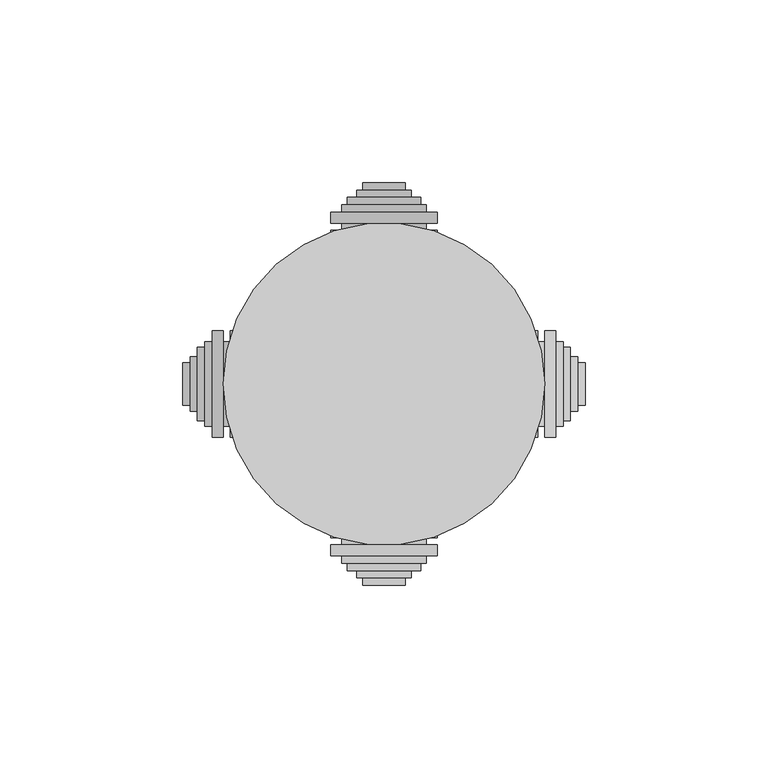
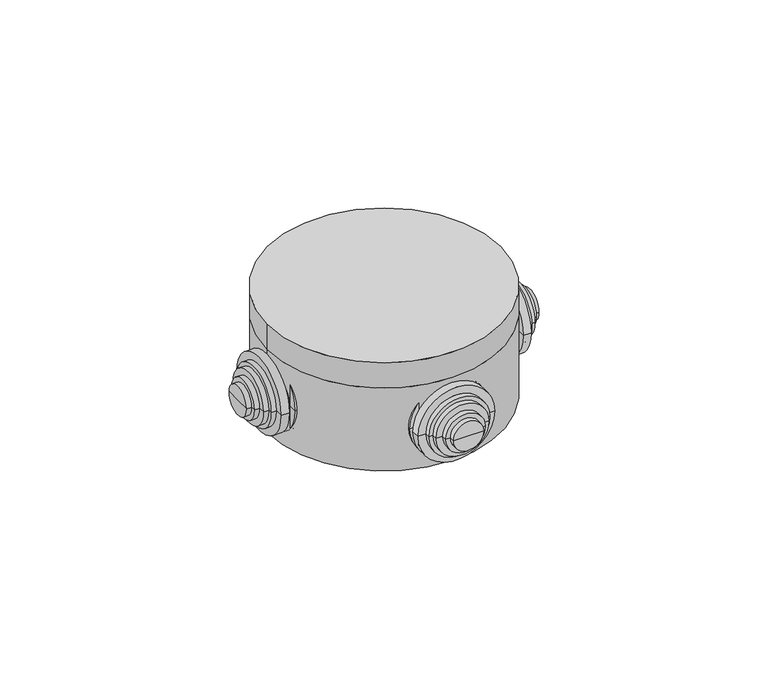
"""IFC4 building model written with IfcOpenShell, lengths in millimetres: cable carrier fitting geometry."""

from ifc_helpers import new_model, si_unit, frame, origin, origin_with_axes, place, context, project, spatial, polyline, circle_curve, source, transform, mapped, element, save
from ifc_brep_helpers import plane_surface, cylinder_surface, revolved_surface, advanced_brep


def cable_carrier_fitting_8490ce1b(model_context):
    return source(origin(), model_context, "Body", "AdvancedBrep", [
        advanced_brep(
        [(-42.0, -11.5, 16.5), (-42.0, 11.5, 16.5), (-42.0, 14.5, 16.5), (-42.0, -14.5, 16.5), (-44.0, -11.5, 16.5), (-44.0, 11.5, 16.5), (-44.0, -14.5, 16.5), (-44.0, 14.5, 16.5), (-47.0, -14.5, 16.5), (-47.0, 14.5, 16.5), (-47.0, -11.5, 16.5), (-47.0, 11.5, 16.5), (-49.0, -11.5, 16.5), (-49.0, 11.5, 16.5), (-49.0, -10.0, 16.5), (-49.0, 10.0, 16.5), (-51.0, -10.0, 16.5), (-51.0, 10.0, 16.5), (-51.0, -7.5, 16.5), (-51.0, 7.5, 16.5), (-53.0, -7.5, 16.5), (-53.0, 7.5, 16.5), (-53.0, -5.75, 16.5), (-53.0, 5.75, 16.5), (-55.0, -5.75, 16.5), (-55.0, 5.75, 16.5), (-55.0, 0.0, 16.5), (-39.0, -11.5, 16.5), (-39.0, 11.5, 16.5), (-39.0, 0.0, 16.5), (-39.7491137, -14.5, 16.5), (-39.7491137, 14.5, 16.5)],
        [
            (0, 1, circle_curve(frame((-42.0, 0.0, 16.5), z_axis=(1.0, 0.0, 0.0), x_axis=(0.0, 1.0000000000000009, 0.0)), 11.5)),
            (1, 2),
            (2, 3, circle_curve(frame((-42.0, 0.0, 16.5), z_axis=(-1.0, 0.0, 0.0), x_axis=(0.0, 1.0000000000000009, 0.0)), 14.5)),
            (3, 0),
            (1, 0, circle_curve(frame((-42.0, 0.0, 16.5), z_axis=(1.0, 0.0, 0.0), x_axis=(0.0, 1.0000000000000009, 0.0)), 11.5)),
            (3, 2, circle_curve(frame((-42.0, 0.0, 16.5), z_axis=(-1.0, 0.0, 0.0), x_axis=(0.0, 1.0000000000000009, 0.0)), 14.5)),
            (4, 5, circle_curve(frame((-44.0, 0.0, 16.5), z_axis=(1.0, 0.0, 0.0), x_axis=(0.0, 1.0000000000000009, 0.0)), 11.5)),
            (5, 1),
            (0, 4),
            (5, 4, circle_curve(frame((-44.0, 0.0, 16.5), z_axis=(1.0, 0.0, 0.0), x_axis=(0.0, 1.0000000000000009, 0.0)), 11.5)),
            (6, 7, circle_curve(frame((-44.0, 0.0, 16.5), z_axis=(1.0, 0.0, 0.0), x_axis=(0.0, 1.0000000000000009, 0.0)), 14.5)),
            (7, 5),
            (4, 6),
            (7, 6, circle_curve(frame((-44.0, 0.0, 16.5), z_axis=(1.0, 0.0, 0.0), x_axis=(0.0, 1.0000000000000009, 0.0)), 14.5)),
            (8, 9, circle_curve(frame((-47.0, 0.0, 16.5), z_axis=(1.0, 0.0, 0.0), x_axis=(0.0, 1.0000000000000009, 0.0)), 14.5)),
            (9, 7),
            (6, 8),
            (9, 8, circle_curve(frame((-47.0, 0.0, 16.5), z_axis=(1.0, 0.0, 0.0), x_axis=(0.0, 1.0000000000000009, 0.0)), 14.5)),
            (10, 11, circle_curve(frame((-47.0, 0.0, 16.5), z_axis=(1.0, 0.0, 0.0), x_axis=(0.0, 1.0000000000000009, 0.0)), 11.5)),
            (11, 9),
            (8, 10),
            (11, 10, circle_curve(frame((-47.0, 0.0, 16.5), z_axis=(1.0, 0.0, 0.0), x_axis=(0.0, 1.0000000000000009, 0.0)), 11.5)),
            (12, 13, circle_curve(frame((-49.0, 0.0, 16.5), z_axis=(1.0, 0.0, 0.0), x_axis=(0.0, 1.0000000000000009, 0.0)), 11.5)),
            (13, 11),
            (10, 12),
            (13, 12, circle_curve(frame((-49.0, 0.0, 16.5), z_axis=(1.0, 0.0, 0.0), x_axis=(0.0, 1.0000000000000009, 0.0)), 11.5)),
            (14, 15, circle_curve(frame((-49.0, 0.0, 16.5), z_axis=(1.0, 0.0, 0.0), x_axis=(0.0, 1.0000000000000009, 0.0)), 10.0)),
            (15, 13),
            (12, 14),
            (15, 14, circle_curve(frame((-49.0, 0.0, 16.5), z_axis=(1.0, 0.0, 0.0), x_axis=(0.0, 1.0000000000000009, 0.0)), 10.0)),
            (16, 17, circle_curve(frame((-51.0, 0.0, 16.5), z_axis=(1.0, 0.0, 0.0), x_axis=(0.0, 1.0000000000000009, 0.0)), 10.0)),
            (17, 15),
            (14, 16),
            (17, 16, circle_curve(frame((-51.0, 0.0, 16.5), z_axis=(1.0, 0.0, 0.0), x_axis=(0.0, 1.0000000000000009, 0.0)), 10.0)),
            (18, 19, circle_curve(frame((-51.0, 0.0, 16.5), z_axis=(1.0, 0.0, 0.0), x_axis=(0.0, 1.0000000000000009, 0.0)), 7.5)),
            (19, 17),
            (16, 18),
            (19, 18, circle_curve(frame((-51.0, 0.0, 16.5), z_axis=(1.0, 0.0, 0.0), x_axis=(0.0, 1.0000000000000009, 0.0)), 7.5)),
            (20, 21, circle_curve(frame((-53.0, 0.0, 16.5), z_axis=(1.0, 0.0, 0.0), x_axis=(0.0, 1.0000000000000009, 0.0)), 7.5)),
            (21, 19),
            (18, 20),
            (21, 20, circle_curve(frame((-53.0, 0.0, 16.5), z_axis=(1.0, 0.0, 0.0), x_axis=(0.0, 1.0000000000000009, 0.0)), 7.5)),
            (22, 23, circle_curve(frame((-53.0, 0.0, 16.5), z_axis=(1.0, 0.0, 0.0), x_axis=(0.0, 1.0000000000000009, 0.0)), 5.75)),
            (23, 21),
            (20, 22),
            (23, 22, circle_curve(frame((-53.0, 0.0, 16.5), z_axis=(1.0, 0.0, 0.0), x_axis=(0.0, 1.0000000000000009, 0.0)), 5.75)),
            (24, 25, circle_curve(frame((-55.0, 0.0, 16.5), z_axis=(1.0, 0.0, 0.0), x_axis=(0.0, 1.0000000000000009, 0.0)), 5.75)),
            (25, 23),
            (22, 24),
            (25, 24, circle_curve(frame((-55.0, 0.0, 16.5), z_axis=(1.0, 0.0, 0.0), x_axis=(0.0, 1.0000000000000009, 0.0)), 5.75)),
            (26, 25),
            (24, 26),
            (27, 28, circle_curve(frame((-39.0, 0.0, 16.5), z_axis=(1.0, 0.0, 0.0), x_axis=(0.0, 1.0000000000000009, 0.0)), 11.5)),
            (28, 29),
            (29, 27),
            (28, 27, circle_curve(frame((-39.0, 0.0, 16.5), z_axis=(1.0, 0.0, 0.0), x_axis=(0.0, 1.0000000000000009, 0.0)), 11.5)),
            (30, 31, circle_curve(frame((-39.7491137, 0.0, 16.5), z_axis=(1.0, 0.0, 0.0), x_axis=(0.0, 1.0000000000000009, 0.0)), 14.5)),
            (31, 28),
            (27, 30),
            (31, 30, circle_curve(frame((-39.7491137, 0.0, 16.5), z_axis=(1.0, 0.0, 0.0), x_axis=(0.0, 1.0000000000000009, 0.0)), 14.5)),
            (2, 31),
            (30, 3),
        ],
        [
            plane_surface(frame((-42.0, 0.0, 16.5), z_axis=(-1.0, 0.0, 0.0), x_axis=(0.0, 1.0, 0.0))),
            cylinder_surface(frame((1471.0, 0.0, 16.5), z_axis=(-1.0000000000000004, 0.0, 0.0), x_axis=(0.0, 1.0000000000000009, 0.0)), 11.5),
            plane_surface(frame((-44.0, 0.0, 16.5), z_axis=(1.0, 0.0, 0.0), x_axis=(0.0, 1.0, 0.0))),
            cylinder_surface(frame((1471.0, 0.0, 16.5), z_axis=(-1.0000000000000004, 0.0, 0.0), x_axis=(0.0, 1.0000000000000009, 0.0)), 14.5),
            plane_surface(frame((-47.0, 0.0, 16.5), z_axis=(-1.0, 0.0, 0.0), x_axis=(0.0, 1.0, 0.0))),
            plane_surface(frame((-49.0, 0.0, 16.5), z_axis=(-1.0, 0.0, 0.0), x_axis=(0.0, 1.0, 0.0))),
            cylinder_surface(frame((1471.0, 0.0, 16.5), z_axis=(-1.0000000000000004, 0.0, 0.0), x_axis=(0.0, 1.0000000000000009, 0.0)), 10.0),
            plane_surface(frame((-51.0, 0.0, 16.5), z_axis=(-1.0, 0.0, 0.0), x_axis=(0.0, 1.0, 0.0))),
            cylinder_surface(frame((1471.0, 0.0, 16.5), z_axis=(-1.0000000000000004, 0.0, 0.0), x_axis=(0.0, 1.0000000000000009, 0.0)), 7.5),
            plane_surface(frame((-53.0, 0.0, 16.5), z_axis=(-1.0, 0.0, 0.0), x_axis=(0.0, 1.0, 0.0))),
            cylinder_surface(frame((1471.0, 0.0, 16.5), z_axis=(-1.0000000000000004, 0.0, 0.0), x_axis=(0.0, 1.0000000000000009, 0.0)), 5.75),
            plane_surface(frame((-55.0, 0.0, 16.5), z_axis=(-1.0, 0.0, 0.0), x_axis=(0.0, 1.0, 0.0))),
            plane_surface(frame((-39.0, 0.0, 16.5), z_axis=(1.0, 0.0, 0.0), x_axis=(0.0, 1.0, 0.0))),
            revolved_surface(polyline([(-39.0, 11.5, 16.5), (-39.7491137, 14.5, 16.5)]), (1471.0, 0.0, 16.5), (-1.0000000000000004, 0.0, 0.0)),
        ],
        [
            (0, [[1, 2, 3, 4]]),
            (0, [[5, -4, 6, -2]]),
            (1, [[7, 8, -1, 9]]),
            (1, [[10, -9, -5, -8]]),
            (2, [[11, 12, -7, 13]]),
            (2, [[14, -13, -10, -12]]),
            (3, [[15, 16, -11, 17]]),
            (3, [[18, -17, -14, -16]]),
            (4, [[19, 20, -15, 21]]),
            (4, [[22, -21, -18, -20]]),
            (1, [[23, 24, -19, 25]]),
            (1, [[26, -25, -22, -24]]),
            (5, [[27, 28, -23, 29]]),
            (5, [[30, -29, -26, -28]]),
            (6, [[31, 32, -27, 33]]),
            (6, [[34, -33, -30, -32]]),
            (7, [[35, 36, -31, 37]]),
            (7, [[38, -37, -34, -36]]),
            (8, [[39, 40, -35, 41]]),
            (8, [[42, -41, -38, -40]]),
            (9, [[43, 44, -39, 45]]),
            (9, [[46, -45, -42, -44]]),
            (10, [[47, 48, -43, 49]]),
            (10, [[50, -49, -46, -48]]),
            (11, [[51, -47, 52]]),
            (11, [[-52, -50, -51]]),
            (12, [[53, 54, 55]]),
            (12, [[56, -55, -54]]),
            (13, [[57, 58, -53, 59]]),
            (13, [[60, -59, -56, -58]]),
            (3, [[-3, 61, -57, 62]]),
            (3, [[-6, -62, -60, -61]]),
        ],
    ),
        advanced_brep(
        [(42.0, 11.5, 16.5), (42.0, -11.5, 16.5), (42.0, -14.5, 16.5), (42.0, 14.5, 16.5), (44.0, 11.5, 16.5), (44.0, -11.5, 16.5), (44.0, 14.5, 16.5), (44.0, -14.5, 16.5), (47.0, 14.5, 16.5), (47.0, -14.5, 16.5), (47.0, 11.5, 16.5), (47.0, -11.5, 16.5), (49.0, 11.5, 16.5), (49.0, -11.5, 16.5), (49.0, 10.0, 16.5), (49.0, -10.0, 16.5), (51.0, 10.0, 16.5), (51.0, -10.0, 16.5), (51.0, 7.5, 16.5), (51.0, -7.5, 16.5), (53.0, 7.5, 16.5), (53.0, -7.5, 16.5), (53.0, 5.75, 16.5), (53.0, -5.75, 16.5), (55.0, 5.75, 16.5), (55.0, -5.75, 16.5), (55.0, 0.0, 16.5), (39.0, 11.5, 16.5), (39.0, -11.5, 16.5), (39.0, 0.0, 16.5), (39.7491137, 14.5, 16.5), (39.7491137, -14.5, 16.5)],
        [
            (0, 1, circle_curve(frame((42.0, 0.0, 16.5), z_axis=(-1.0, 0.0, 0.0), x_axis=(0.0, -1.0, 0.0)), 11.5)),
            (1, 2),
            (2, 3, circle_curve(frame((42.0, 0.0, 16.5), z_axis=(1.0, 0.0, 0.0), x_axis=(0.0, -1.0, 0.0)), 14.5)),
            (3, 0),
            (1, 0, circle_curve(frame((42.0, 0.0, 16.5), z_axis=(-1.0, 0.0, 0.0), x_axis=(0.0, -1.0, 0.0)), 11.5)),
            (3, 2, circle_curve(frame((42.0, 0.0, 16.5), z_axis=(1.0, 0.0, 0.0), x_axis=(0.0, -1.0, 0.0)), 14.5)),
            (4, 5, circle_curve(frame((44.0, 0.0, 16.5), z_axis=(-1.0, 0.0, 0.0), x_axis=(0.0, -1.0, 0.0)), 11.5)),
            (5, 1),
            (0, 4),
            (5, 4, circle_curve(frame((44.0, 0.0, 16.5), z_axis=(-1.0, 0.0, 0.0), x_axis=(0.0, -1.0, 0.0)), 11.5)),
            (6, 7, circle_curve(frame((44.0, 0.0, 16.5), z_axis=(-1.0, 0.0, 0.0), x_axis=(0.0, -1.0, 0.0)), 14.5)),
            (7, 5),
            (4, 6),
            (7, 6, circle_curve(frame((44.0, 0.0, 16.5), z_axis=(-1.0, 0.0, 0.0), x_axis=(0.0, -1.0, 0.0)), 14.5)),
            (8, 9, circle_curve(frame((47.0, 0.0, 16.5), z_axis=(-1.0, 0.0, 0.0), x_axis=(0.0, -1.0, 0.0)), 14.5)),
            (9, 7),
            (6, 8),
            (9, 8, circle_curve(frame((47.0, 0.0, 16.5), z_axis=(-1.0, 0.0, 0.0), x_axis=(0.0, -1.0, 0.0)), 14.5)),
            (10, 11, circle_curve(frame((47.0, 0.0, 16.5), z_axis=(-1.0, 0.0, 0.0), x_axis=(0.0, -1.0, 0.0)), 11.5)),
            (11, 9),
            (8, 10),
            (11, 10, circle_curve(frame((47.0, 0.0, 16.5), z_axis=(-1.0, 0.0, 0.0), x_axis=(0.0, -1.0, 0.0)), 11.5)),
            (12, 13, circle_curve(frame((49.0, 0.0, 16.5), z_axis=(-1.0, 0.0, 0.0), x_axis=(0.0, -1.0, 0.0)), 11.5)),
            (13, 11),
            (10, 12),
            (13, 12, circle_curve(frame((49.0, 0.0, 16.5), z_axis=(-1.0, 0.0, 0.0), x_axis=(0.0, -1.0, 0.0)), 11.5)),
            (14, 15, circle_curve(frame((49.0, 0.0, 16.5), z_axis=(-1.0, 0.0, 0.0), x_axis=(0.0, -1.0, 0.0)), 10.0)),
            (15, 13),
            (12, 14),
            (15, 14, circle_curve(frame((49.0, 0.0, 16.5), z_axis=(-1.0, 0.0, 0.0), x_axis=(0.0, -1.0, 0.0)), 10.0)),
            (16, 17, circle_curve(frame((51.0, 0.0, 16.5), z_axis=(-1.0, 0.0, 0.0), x_axis=(0.0, -1.0, 0.0)), 10.0)),
            (17, 15),
            (14, 16),
            (17, 16, circle_curve(frame((51.0, 0.0, 16.5), z_axis=(-1.0, 0.0, 0.0), x_axis=(0.0, -1.0, 0.0)), 10.0)),
            (18, 19, circle_curve(frame((51.0, 0.0, 16.5), z_axis=(-1.0, 0.0, 0.0), x_axis=(0.0, -1.0, 0.0)), 7.5)),
            (19, 17),
            (16, 18),
            (19, 18, circle_curve(frame((51.0, 0.0, 16.5), z_axis=(-1.0, 0.0, 0.0), x_axis=(0.0, -1.0, 0.0)), 7.5)),
            (20, 21, circle_curve(frame((53.0, 0.0, 16.5), z_axis=(-1.0, 0.0, 0.0), x_axis=(0.0, -1.0, 0.0)), 7.5)),
            (21, 19),
            (18, 20),
            (21, 20, circle_curve(frame((53.0, 0.0, 16.5), z_axis=(-1.0, 0.0, 0.0), x_axis=(0.0, -1.0, 0.0)), 7.5)),
            (22, 23, circle_curve(frame((53.0, 0.0, 16.5), z_axis=(-1.0, 0.0, 0.0), x_axis=(0.0, -1.0, 0.0)), 5.75)),
            (23, 21),
            (20, 22),
            (23, 22, circle_curve(frame((53.0, 0.0, 16.5), z_axis=(-1.0, 0.0, 0.0), x_axis=(0.0, -1.0, 0.0)), 5.75)),
            (24, 25, circle_curve(frame((55.0, 0.0, 16.5), z_axis=(-1.0, 0.0, 0.0), x_axis=(0.0, -1.0, 0.0)), 5.75)),
            (25, 23),
            (22, 24),
            (25, 24, circle_curve(frame((55.0, 0.0, 16.5), z_axis=(-1.0, 0.0, 0.0), x_axis=(0.0, -1.0, 0.0)), 5.75)),
            (26, 25),
            (24, 26),
            (27, 28, circle_curve(frame((39.0, 0.0, 16.5), z_axis=(-1.0, 0.0, 0.0), x_axis=(0.0, -1.0, 0.0)), 11.5)),
            (28, 29),
            (29, 27),
            (28, 27, circle_curve(frame((39.0, 0.0, 16.5), z_axis=(-1.0, 0.0, 0.0), x_axis=(0.0, -1.0, 0.0)), 11.5)),
            (30, 31, circle_curve(frame((39.7491137, 0.0, 16.5), z_axis=(-1.0, 0.0, 0.0), x_axis=(0.0, -1.0, 0.0)), 14.5)),
            (31, 28),
            (27, 30),
            (31, 30, circle_curve(frame((39.7491137, 0.0, 16.5), z_axis=(-1.0, 0.0, 0.0), x_axis=(0.0, -1.0, 0.0)), 14.5)),
            (2, 31),
            (30, 3),
        ],
        [
            plane_surface(frame((42.0, 0.0, 16.5), z_axis=(1.0, 0.0, 0.0), x_axis=(0.0, -1.0, 0.0))),
            cylinder_surface(frame((-1471.0, 0.0, 16.5), z_axis=(1.0, 0.0, 0.0), x_axis=(0.0, -1.0, 0.0)), 11.5),
            plane_surface(frame((44.0, 0.0, 16.5), z_axis=(-1.0, 0.0, 0.0), x_axis=(0.0, -1.0, 0.0))),
            cylinder_surface(frame((-1471.0, 0.0, 16.5), z_axis=(1.0, 0.0, 0.0), x_axis=(0.0, -1.0, 0.0)), 14.5),
            plane_surface(frame((47.0, 0.0, 16.5), z_axis=(1.0, 0.0, 0.0), x_axis=(0.0, -1.0, 0.0))),
            plane_surface(frame((49.0, 0.0, 16.5), z_axis=(1.0, 0.0, 0.0), x_axis=(0.0, -1.0, 0.0))),
            cylinder_surface(frame((-1471.0, 0.0, 16.5), z_axis=(1.0, 0.0, 0.0), x_axis=(0.0, -1.0, 0.0)), 10.0),
            plane_surface(frame((51.0, 0.0, 16.5), z_axis=(1.0, 0.0, 0.0), x_axis=(0.0, -1.0, 0.0))),
            cylinder_surface(frame((-1471.0, 0.0, 16.5), z_axis=(1.0, 0.0, 0.0), x_axis=(0.0, -1.0, 0.0)), 7.5),
            plane_surface(frame((53.0, 0.0, 16.5), z_axis=(1.0, 0.0, 0.0), x_axis=(0.0, -1.0, 0.0))),
            cylinder_surface(frame((-1471.0, 0.0, 16.5), z_axis=(1.0, 0.0, 0.0), x_axis=(0.0, -1.0, 0.0)), 5.75),
            plane_surface(frame((55.0, 0.0, 16.5), z_axis=(1.0, 0.0, 0.0), x_axis=(0.0, -1.0, 0.0))),
            plane_surface(frame((39.0, 0.0, 16.5), z_axis=(-1.0, 0.0, 0.0), x_axis=(0.0, -1.0, 0.0))),
            revolved_surface(polyline([(39.0, -11.5, 16.5), (39.7491137, -14.5, 16.5)]), (-1471.0, 0.0, 16.5), (1.0, 0.0, 0.0)),
        ],
        [
            (0, [[1, 2, 3, 4]]),
            (0, [[5, -4, 6, -2]]),
            (1, [[7, 8, -1, 9]]),
            (1, [[10, -9, -5, -8]]),
            (2, [[11, 12, -7, 13]]),
            (2, [[14, -13, -10, -12]]),
            (3, [[15, 16, -11, 17]]),
            (3, [[18, -17, -14, -16]]),
            (4, [[19, 20, -15, 21]]),
            (4, [[22, -21, -18, -20]]),
            (1, [[23, 24, -19, 25]]),
            (1, [[26, -25, -22, -24]]),
            (5, [[27, 28, -23, 29]]),
            (5, [[30, -29, -26, -28]]),
            (6, [[31, 32, -27, 33]]),
            (6, [[34, -33, -30, -32]]),
            (7, [[35, 36, -31, 37]]),
            (7, [[38, -37, -34, -36]]),
            (8, [[39, 40, -35, 41]]),
            (8, [[42, -41, -38, -40]]),
            (9, [[43, 44, -39, 45]]),
            (9, [[46, -45, -42, -44]]),
            (10, [[47, 48, -43, 49]]),
            (10, [[50, -49, -46, -48]]),
            (11, [[51, -47, 52]]),
            (11, [[-52, -50, -51]]),
            (12, [[53, 54, 55]]),
            (12, [[56, -55, -54]]),
            (13, [[57, 58, -53, 59]]),
            (13, [[60, -59, -56, -58]]),
            (3, [[-3, 61, -57, 62]]),
            (3, [[-6, -62, -60, -61]]),
        ],
    ),
        advanced_brep(
        [(11.5, -42.0, 16.5), (-11.5, -42.0, 16.5), (-14.5, -42.0, 16.5), (14.5, -42.0, 16.5), (11.5, -44.0, 16.5), (-11.5, -44.0, 16.5), (14.5, -44.0, 16.5), (-14.5, -44.0, 16.5), (14.5, -47.0, 16.5), (-14.5, -47.0, 16.5), (11.5, -47.0, 16.5), (-11.5, -47.0, 16.5), (11.5, -49.0, 16.5), (-11.5, -49.0, 16.5), (10.0, -49.0, 16.5), (-10.0, -49.0, 16.5), (10.0, -51.0, 16.5), (-10.0, -51.0, 16.5), (7.5, -51.0, 16.5), (-7.5, -51.0, 16.5), (7.5, -53.0, 16.5), (-7.5, -53.0, 16.5), (5.75, -53.0, 16.5), (-5.75, -53.0, 16.5), (5.75, -55.0, 16.5), (-5.75, -55.0, 16.5), (0.0, -55.0, 16.5), (11.5, -39.0, 16.5), (-11.5, -39.0, 16.5), (0.0, -39.0, 16.5), (14.5, -39.7491137, 16.5), (-14.5, -39.7491137, 16.5)],
        [
            (0, 1, circle_curve(frame((0.0, -42.0, 16.5), z_axis=(0.0, 1.0, 0.0), x_axis=(-1.0000000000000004, 0.0, 0.0)), 11.5)),
            (1, 2),
            (2, 3, circle_curve(frame((0.0, -42.0, 16.5), z_axis=(0.0, -1.0, 0.0), x_axis=(-1.0000000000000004, 0.0, 0.0)), 14.5)),
            (3, 0),
            (1, 0, circle_curve(frame((0.0, -42.0, 16.5), z_axis=(0.0, 1.0, 0.0), x_axis=(-1.0000000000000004, 0.0, 0.0)), 11.5)),
            (3, 2, circle_curve(frame((0.0, -42.0, 16.5), z_axis=(0.0, -1.0, 0.0), x_axis=(-1.0000000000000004, 0.0, 0.0)), 14.5)),
            (4, 5, circle_curve(frame((0.0, -44.0, 16.5), z_axis=(0.0, 1.0, 0.0), x_axis=(-1.0000000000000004, 0.0, 0.0)), 11.5)),
            (5, 1),
            (0, 4),
            (5, 4, circle_curve(frame((0.0, -44.0, 16.5), z_axis=(0.0, 1.0, 0.0), x_axis=(-1.0000000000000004, 0.0, 0.0)), 11.5)),
            (6, 7, circle_curve(frame((0.0, -44.0, 16.5), z_axis=(0.0, 1.0, 0.0), x_axis=(-1.0000000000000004, 0.0, 0.0)), 14.5)),
            (7, 5),
            (4, 6),
            (7, 6, circle_curve(frame((0.0, -44.0, 16.5), z_axis=(0.0, 1.0, 0.0), x_axis=(-1.0000000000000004, 0.0, 0.0)), 14.5)),
            (8, 9, circle_curve(frame((0.0, -47.0, 16.5), z_axis=(0.0, 1.0, 0.0), x_axis=(-1.0000000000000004, 0.0, 0.0)), 14.5)),
            (9, 7),
            (6, 8),
            (9, 8, circle_curve(frame((0.0, -47.0, 16.5), z_axis=(0.0, 1.0, 0.0), x_axis=(-1.0000000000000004, 0.0, 0.0)), 14.5)),
            (10, 11, circle_curve(frame((0.0, -47.0, 16.5), z_axis=(0.0, 1.0, 0.0), x_axis=(-1.0000000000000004, 0.0, 0.0)), 11.5)),
            (11, 9),
            (8, 10),
            (11, 10, circle_curve(frame((0.0, -47.0, 16.5), z_axis=(0.0, 1.0, 0.0), x_axis=(-1.0000000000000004, 0.0, 0.0)), 11.5)),
            (12, 13, circle_curve(frame((0.0, -49.0, 16.5), z_axis=(0.0, 1.0, 0.0), x_axis=(-1.0000000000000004, 0.0, 0.0)), 11.5)),
            (13, 11),
            (10, 12),
            (13, 12, circle_curve(frame((0.0, -49.0, 16.5), z_axis=(0.0, 1.0, 0.0), x_axis=(-1.0000000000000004, 0.0, 0.0)), 11.5)),
            (14, 15, circle_curve(frame((0.0, -49.0, 16.5), z_axis=(0.0, 1.0, 0.0), x_axis=(-1.0000000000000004, 0.0, 0.0)), 10.0)),
            (15, 13),
            (12, 14),
            (15, 14, circle_curve(frame((0.0, -49.0, 16.5), z_axis=(0.0, 1.0, 0.0), x_axis=(-1.0000000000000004, 0.0, 0.0)), 10.0)),
            (16, 17, circle_curve(frame((0.0, -51.0, 16.5), z_axis=(0.0, 1.0, 0.0), x_axis=(-1.0000000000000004, 0.0, 0.0)), 10.0)),
            (17, 15),
            (14, 16),
            (17, 16, circle_curve(frame((0.0, -51.0, 16.5), z_axis=(0.0, 1.0, 0.0), x_axis=(-1.0000000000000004, 0.0, 0.0)), 10.0)),
            (18, 19, circle_curve(frame((0.0, -51.0, 16.5), z_axis=(0.0, 1.0, 0.0), x_axis=(-1.0000000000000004, 0.0, 0.0)), 7.5)),
            (19, 17),
            (16, 18),
            (19, 18, circle_curve(frame((0.0, -51.0, 16.5), z_axis=(0.0, 1.0, 0.0), x_axis=(-1.0000000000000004, 0.0, 0.0)), 7.5)),
            (20, 21, circle_curve(frame((0.0, -53.0, 16.5), z_axis=(0.0, 1.0, 0.0), x_axis=(-1.0000000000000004, 0.0, 0.0)), 7.5)),
            (21, 19),
            (18, 20),
            (21, 20, circle_curve(frame((0.0, -53.0, 16.5), z_axis=(0.0, 1.0, 0.0), x_axis=(-1.0000000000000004, 0.0, 0.0)), 7.5)),
            (22, 23, circle_curve(frame((0.0, -53.0, 16.5), z_axis=(0.0, 1.0, 0.0), x_axis=(-1.0000000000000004, 0.0, 0.0)), 5.75)),
            (23, 21),
            (20, 22),
            (23, 22, circle_curve(frame((0.0, -53.0, 16.5), z_axis=(0.0, 1.0, 0.0), x_axis=(-1.0000000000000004, 0.0, 0.0)), 5.75)),
            (24, 25, circle_curve(frame((0.0, -55.0, 16.5), z_axis=(0.0, 1.0, 0.0), x_axis=(-1.0000000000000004, 0.0, 0.0)), 5.75)),
            (25, 23),
            (22, 24),
            (25, 24, circle_curve(frame((0.0, -55.0, 16.5), z_axis=(0.0, 1.0, 0.0), x_axis=(-1.0000000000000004, 0.0, 0.0)), 5.75)),
            (26, 25),
            (24, 26),
            (27, 28, circle_curve(frame((0.0, -39.0, 16.5), z_axis=(0.0, 1.0, 0.0), x_axis=(-1.0000000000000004, 0.0, 0.0)), 11.5)),
            (28, 29),
            (29, 27),
            (28, 27, circle_curve(frame((0.0, -39.0, 16.5), z_axis=(0.0, 1.0, 0.0), x_axis=(-1.0000000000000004, 0.0, 0.0)), 11.5)),
            (30, 31, circle_curve(frame((0.0, -39.7491137, 16.5), z_axis=(0.0, 1.0, 0.0), x_axis=(-1.0000000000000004, 0.0, 0.0)), 14.5)),
            (31, 28),
            (27, 30),
            (31, 30, circle_curve(frame((0.0, -39.7491137, 16.5), z_axis=(0.0, 1.0, 0.0), x_axis=(-1.0000000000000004, 0.0, 0.0)), 14.5)),
            (2, 31),
            (30, 3),
        ],
        [
            plane_surface(frame((0.0, -42.0, 16.5), z_axis=(0.0, -1.0, 0.0), x_axis=(-1.0, 0.0, 0.0))),
            cylinder_surface(frame((0.0, 1471.0, 16.5), z_axis=(0.0, -1.0000000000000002, 0.0), x_axis=(-1.0000000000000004, 0.0, 0.0)), 11.5),
            plane_surface(frame((0.0, -44.0, 16.5), z_axis=(0.0, 1.0, 0.0), x_axis=(-1.0, 0.0, 0.0))),
            cylinder_surface(frame((0.0, 1471.0, 16.5), z_axis=(0.0, -1.0000000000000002, 0.0), x_axis=(-1.0000000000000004, 0.0, 0.0)), 14.5),
            plane_surface(frame((0.0, -47.0, 16.5), z_axis=(0.0, -1.0, 0.0), x_axis=(-1.0, 0.0, 0.0))),
            plane_surface(frame((0.0, -49.0, 16.5), z_axis=(0.0, -1.0, 0.0), x_axis=(-1.0, 0.0, 0.0))),
            cylinder_surface(frame((0.0, 1471.0, 16.5), z_axis=(0.0, -1.0000000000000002, 0.0), x_axis=(-1.0000000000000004, 0.0, 0.0)), 10.0),
            plane_surface(frame((0.0, -51.0, 16.5), z_axis=(0.0, -1.0, 0.0), x_axis=(-1.0, 0.0, 0.0))),
            cylinder_surface(frame((0.0, 1471.0, 16.5), z_axis=(0.0, -1.0000000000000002, 0.0), x_axis=(-1.0000000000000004, 0.0, 0.0)), 7.5),
            plane_surface(frame((0.0, -53.0, 16.5), z_axis=(0.0, -1.0, 0.0), x_axis=(-1.0, 0.0, 0.0))),
            cylinder_surface(frame((0.0, 1471.0, 16.5), z_axis=(0.0, -1.0000000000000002, 0.0), x_axis=(-1.0000000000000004, 0.0, 0.0)), 5.75),
            plane_surface(frame((0.0, -55.0, 16.5), z_axis=(0.0, -1.0, 0.0), x_axis=(-1.0, 0.0, 0.0))),
            plane_surface(frame((0.0, -39.0, 16.5), z_axis=(0.0, 1.0, 0.0), x_axis=(-1.0, 0.0, 0.0))),
            revolved_surface(polyline([(-11.5, -39.0, 16.5), (-14.5, -39.7491137, 16.5)]), (0.0, 1471.0, 16.5), (0.0, -1.0000000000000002, 0.0)),
        ],
        [
            (0, [[1, 2, 3, 4]]),
            (0, [[5, -4, 6, -2]]),
            (1, [[7, 8, -1, 9]]),
            (1, [[10, -9, -5, -8]]),
            (2, [[11, 12, -7, 13]]),
            (2, [[14, -13, -10, -12]]),
            (3, [[15, 16, -11, 17]]),
            (3, [[18, -17, -14, -16]]),
            (4, [[19, 20, -15, 21]]),
            (4, [[22, -21, -18, -20]]),
            (1, [[23, 24, -19, 25]]),
            (1, [[26, -25, -22, -24]]),
            (5, [[27, 28, -23, 29]]),
            (5, [[30, -29, -26, -28]]),
            (6, [[31, 32, -27, 33]]),
            (6, [[34, -33, -30, -32]]),
            (7, [[35, 36, -31, 37]]),
            (7, [[38, -37, -34, -36]]),
            (8, [[39, 40, -35, 41]]),
            (8, [[42, -41, -38, -40]]),
            (9, [[43, 44, -39, 45]]),
            (9, [[46, -45, -42, -44]]),
            (10, [[47, 48, -43, 49]]),
            (10, [[50, -49, -46, -48]]),
            (11, [[51, -47, 52]]),
            (11, [[-52, -50, -51]]),
            (12, [[53, 54, 55]]),
            (12, [[56, -55, -54]]),
            (13, [[57, 58, -53, 59]]),
            (13, [[60, -59, -56, -58]]),
            (3, [[-3, 61, -57, 62]]),
            (3, [[-6, -62, -60, -61]]),
        ],
    ),
        advanced_brep(
        [(-11.5, 42.0, 16.5), (11.5, 42.0, 16.5), (14.5, 42.0, 16.5), (-14.5, 42.0, 16.5), (-11.5, 44.0, 16.5), (11.5, 44.0, 16.5), (-14.5, 44.0, 16.5), (14.5, 44.0, 16.5), (-14.5, 47.0, 16.5), (14.5, 47.0, 16.5), (-11.5, 47.0, 16.5), (11.5, 47.0, 16.5), (-11.5, 49.0, 16.5), (11.5, 49.0, 16.5), (-10.0, 49.0, 16.5), (10.0, 49.0, 16.5), (-10.0, 51.0, 16.5), (10.0, 51.0, 16.5), (-7.5, 51.0, 16.5), (7.5, 51.0, 16.5), (-7.5, 53.0, 16.5), (7.5, 53.0, 16.5), (-5.75, 53.0, 16.5), (5.75, 53.0, 16.5), (-5.75, 55.0, 16.5), (5.75, 55.0, 16.5), (0.0, 55.0, 16.5), (-11.5, 39.0, 16.5), (11.5, 39.0, 16.5), (0.0, 39.0, 16.5), (-14.5, 39.7491137, 16.5), (14.5, 39.7491137, 16.5)],
        [
            (0, 1, circle_curve(frame((0.0, 42.0, 16.5), z_axis=(0.0, -1.0, 0.0), x_axis=(1.0000000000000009, 0.0, 0.0)), 11.5)),
            (1, 2),
            (2, 3, circle_curve(frame((0.0, 42.0, 16.5), z_axis=(0.0, 1.0, 0.0), x_axis=(1.0000000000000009, 0.0, 0.0)), 14.5)),
            (3, 0),
            (1, 0, circle_curve(frame((0.0, 42.0, 16.5), z_axis=(0.0, -1.0, 0.0), x_axis=(1.0000000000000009, 0.0, 0.0)), 11.5)),
            (3, 2, circle_curve(frame((0.0, 42.0, 16.5), z_axis=(0.0, 1.0, 0.0), x_axis=(1.0000000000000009, 0.0, 0.0)), 14.5)),
            (4, 5, circle_curve(frame((0.0, 44.0, 16.5), z_axis=(0.0, -1.0, 0.0), x_axis=(1.0000000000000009, 0.0, 0.0)), 11.5)),
            (5, 1),
            (0, 4),
            (5, 4, circle_curve(frame((0.0, 44.0, 16.5), z_axis=(0.0, -1.0, 0.0), x_axis=(1.0000000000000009, 0.0, 0.0)), 11.5)),
            (6, 7, circle_curve(frame((0.0, 44.0, 16.5), z_axis=(0.0, -1.0, 0.0), x_axis=(1.0000000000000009, 0.0, 0.0)), 14.5)),
            (7, 5),
            (4, 6),
            (7, 6, circle_curve(frame((0.0, 44.0, 16.5), z_axis=(0.0, -1.0, 0.0), x_axis=(1.0000000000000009, 0.0, 0.0)), 14.5)),
            (8, 9, circle_curve(frame((0.0, 47.0, 16.5), z_axis=(0.0, -1.0, 0.0), x_axis=(1.0000000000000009, 0.0, 0.0)), 14.5)),
            (9, 7),
            (6, 8),
            (9, 8, circle_curve(frame((0.0, 47.0, 16.5), z_axis=(0.0, -1.0, 0.0), x_axis=(1.0000000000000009, 0.0, 0.0)), 14.5)),
            (10, 11, circle_curve(frame((0.0, 47.0, 16.5), z_axis=(0.0, -1.0, 0.0), x_axis=(1.0000000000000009, 0.0, 0.0)), 11.5)),
            (11, 9),
            (8, 10),
            (11, 10, circle_curve(frame((0.0, 47.0, 16.5), z_axis=(0.0, -1.0, 0.0), x_axis=(1.0000000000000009, 0.0, 0.0)), 11.5)),
            (12, 13, circle_curve(frame((0.0, 49.0, 16.5), z_axis=(0.0, -1.0, 0.0), x_axis=(1.0000000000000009, 0.0, 0.0)), 11.5)),
            (13, 11),
            (10, 12),
            (13, 12, circle_curve(frame((0.0, 49.0, 16.5), z_axis=(0.0, -1.0, 0.0), x_axis=(1.0000000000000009, 0.0, 0.0)), 11.5)),
            (14, 15, circle_curve(frame((0.0, 49.0, 16.5), z_axis=(0.0, -1.0, 0.0), x_axis=(1.0000000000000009, 0.0, 0.0)), 10.0)),
            (15, 13),
            (12, 14),
            (15, 14, circle_curve(frame((0.0, 49.0, 16.5), z_axis=(0.0, -1.0, 0.0), x_axis=(1.0000000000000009, 0.0, 0.0)), 10.0)),
            (16, 17, circle_curve(frame((0.0, 51.0, 16.5), z_axis=(0.0, -1.0, 0.0), x_axis=(1.0000000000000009, 0.0, 0.0)), 10.0)),
            (17, 15),
            (14, 16),
            (17, 16, circle_curve(frame((0.0, 51.0, 16.5), z_axis=(0.0, -1.0, 0.0), x_axis=(1.0000000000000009, 0.0, 0.0)), 10.0)),
            (18, 19, circle_curve(frame((0.0, 51.0, 16.5), z_axis=(0.0, -1.0, 0.0), x_axis=(1.0000000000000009, 0.0, 0.0)), 7.5)),
            (19, 17),
            (16, 18),
            (19, 18, circle_curve(frame((0.0, 51.0, 16.5), z_axis=(0.0, -1.0, 0.0), x_axis=(1.0000000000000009, 0.0, 0.0)), 7.5)),
            (20, 21, circle_curve(frame((0.0, 53.0, 16.5), z_axis=(0.0, -1.0, 0.0), x_axis=(1.0000000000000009, 0.0, 0.0)), 7.5)),
            (21, 19),
            (18, 20),
            (21, 20, circle_curve(frame((0.0, 53.0, 16.5), z_axis=(0.0, -1.0, 0.0), x_axis=(1.0000000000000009, 0.0, 0.0)), 7.5)),
            (22, 23, circle_curve(frame((0.0, 53.0, 16.5), z_axis=(0.0, -1.0, 0.0), x_axis=(1.0000000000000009, 0.0, 0.0)), 5.75)),
            (23, 21),
            (20, 22),
            (23, 22, circle_curve(frame((0.0, 53.0, 16.5), z_axis=(0.0, -1.0, 0.0), x_axis=(1.0000000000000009, 0.0, 0.0)), 5.75)),
            (24, 25, circle_curve(frame((0.0, 55.0, 16.5), z_axis=(0.0, -1.0, 0.0), x_axis=(1.0000000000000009, 0.0, 0.0)), 5.75)),
            (25, 23),
            (22, 24),
            (25, 24, circle_curve(frame((0.0, 55.0, 16.5), z_axis=(0.0, -1.0, 0.0), x_axis=(1.0000000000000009, 0.0, 0.0)), 5.75)),
            (26, 25),
            (24, 26),
            (27, 28, circle_curve(frame((0.0, 39.0, 16.5), z_axis=(0.0, -1.0, 0.0), x_axis=(1.0000000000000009, 0.0, 0.0)), 11.5)),
            (28, 29),
            (29, 27),
            (28, 27, circle_curve(frame((0.0, 39.0, 16.5), z_axis=(0.0, -1.0, 0.0), x_axis=(1.0000000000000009, 0.0, 0.0)), 11.5)),
            (30, 31, circle_curve(frame((0.0, 39.7491137, 16.5), z_axis=(0.0, -1.0, 0.0), x_axis=(1.0000000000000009, 0.0, 0.0)), 14.5)),
            (31, 28),
            (27, 30),
            (31, 30, circle_curve(frame((0.0, 39.7491137, 16.5), z_axis=(0.0, -1.0, 0.0), x_axis=(1.0000000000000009, 0.0, 0.0)), 14.5)),
            (2, 31),
            (30, 3),
        ],
        [
            plane_surface(frame((0.0, 42.0, 16.5), z_axis=(0.0, 1.0, 0.0), x_axis=(1.0, 0.0, 0.0))),
            cylinder_surface(frame((0.0, -1471.0, 16.5), z_axis=(0.0, 1.0000000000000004, 0.0), x_axis=(1.0000000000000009, 0.0, 0.0)), 11.5),
            plane_surface(frame((0.0, 44.0, 16.5), z_axis=(0.0, -1.0, 0.0), x_axis=(1.0, 0.0, 0.0))),
            cylinder_surface(frame((0.0, -1471.0, 16.5), z_axis=(0.0, 1.0000000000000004, 0.0), x_axis=(1.0000000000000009, 0.0, 0.0)), 14.5),
            plane_surface(frame((0.0, 47.0, 16.5), z_axis=(0.0, 1.0, 0.0), x_axis=(1.0, 0.0, 0.0))),
            plane_surface(frame((0.0, 49.0, 16.5), z_axis=(0.0, 1.0, 0.0), x_axis=(1.0, 0.0, 0.0))),
            cylinder_surface(frame((0.0, -1471.0, 16.5), z_axis=(0.0, 1.0000000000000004, 0.0), x_axis=(1.0000000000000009, 0.0, 0.0)), 10.0),
            plane_surface(frame((0.0, 51.0, 16.5), z_axis=(0.0, 1.0, 0.0), x_axis=(1.0, 0.0, 0.0))),
            cylinder_surface(frame((0.0, -1471.0, 16.5), z_axis=(0.0, 1.0000000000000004, 0.0), x_axis=(1.0000000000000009, 0.0, 0.0)), 7.5),
            plane_surface(frame((0.0, 53.0, 16.5), z_axis=(0.0, 1.0, 0.0), x_axis=(1.0, 0.0, 0.0))),
            cylinder_surface(frame((0.0, -1471.0, 16.5), z_axis=(0.0, 1.0000000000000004, 0.0), x_axis=(1.0000000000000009, 0.0, 0.0)), 5.75),
            plane_surface(frame((0.0, 55.0, 16.5), z_axis=(0.0, 1.0, 0.0), x_axis=(1.0, 0.0, 0.0))),
            plane_surface(frame((0.0, 39.0, 16.5), z_axis=(0.0, -1.0, 0.0), x_axis=(1.0, 0.0, 0.0))),
            revolved_surface(polyline([(11.5, 39.0, 16.5), (14.5, 39.7491137, 16.5)]), (0.0, -1471.0, 16.5), (0.0, 1.0000000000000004, 0.0)),
        ],
        [
            (0, [[1, 2, 3, 4]]),
            (0, [[5, -4, 6, -2]]),
            (1, [[7, 8, -1, 9]]),
            (1, [[10, -9, -5, -8]]),
            (2, [[11, 12, -7, 13]]),
            (2, [[14, -13, -10, -12]]),
            (3, [[15, 16, -11, 17]]),
            (3, [[18, -17, -14, -16]]),
            (4, [[19, 20, -15, 21]]),
            (4, [[22, -21, -18, -20]]),
            (1, [[23, 24, -19, 25]]),
            (1, [[26, -25, -22, -24]]),
            (5, [[27, 28, -23, 29]]),
            (5, [[30, -29, -26, -28]]),
            (6, [[31, 32, -27, 33]]),
            (6, [[34, -33, -30, -32]]),
            (7, [[35, 36, -31, 37]]),
            (7, [[38, -37, -34, -36]]),
            (8, [[39, 40, -35, 41]]),
            (8, [[42, -41, -38, -40]]),
            (9, [[43, 44, -39, 45]]),
            (9, [[46, -45, -42, -44]]),
            (10, [[47, 48, -43, 49]]),
            (10, [[50, -49, -46, -48]]),
            (11, [[51, -47, 52]]),
            (11, [[-52, -50, -51]]),
            (12, [[53, 54, 55]]),
            (12, [[56, -55, -54]]),
            (13, [[57, 58, -53, 59]]),
            (13, [[60, -59, -56, -58]]),
            (3, [[-3, 61, -57, 62]]),
            (3, [[-6, -62, -60, -61]]),
        ],
    ),
        advanced_brep(
        [(-44.0, 0.0, 43.0), (44.0, 0.0, 43.0), (-42.0, 0.0, 41.0), (42.0, 0.0, 41.0), (-44.0, 0.0, 33.0), (44.0, 0.0, 33.0), (-42.0, 0.0, 33.0), (42.0, 0.0, 33.0)],
        [
            (0, 1, circle_curve(frame((0.0, 0.0, 43.0), z_axis=(0.0, 0.0, 1.0), x_axis=(1.0, 0.0, 0.0)), 44.0)),
            (1, 0, circle_curve(frame((0.0, 0.0, 43.0), z_axis=(0.0, 0.0, 1.0), x_axis=(1.0, 0.0, 0.0)), 44.0)),
            (2, 3, circle_curve(frame((0.0, 0.0, 41.0), z_axis=(0.0, 0.0, -1.0), x_axis=(1.0, 0.0, 0.0)), 42.0)),
            (3, 2, circle_curve(frame((0.0, 0.0, 41.0), z_axis=(0.0, 0.0, -1.0), x_axis=(1.0, 0.0, 0.0)), 42.0)),
            (4, 5, circle_curve(frame((0.0, 0.0, 33.0), z_axis=(0.0, 0.0, -1.0), x_axis=(1.0, 0.0, 0.0)), 44.0)),
            (5, 4, circle_curve(frame((0.0, 0.0, 33.0), z_axis=(0.0, 0.0, -1.0), x_axis=(1.0, 0.0, 0.0)), 44.0)),
            (6, 7, circle_curve(frame((0.0, 0.0, 33.0), z_axis=(0.0, 0.0, 1.0), x_axis=(1.0, 0.0, 0.0)), 42.0)),
            (7, 6, circle_curve(frame((0.0, 0.0, 33.0), z_axis=(0.0, 0.0, 1.0), x_axis=(1.0, 0.0, 0.0)), 42.0)),
            (0, 4),
            (5, 1),
            (7, 3),
            (2, 6),
        ],
        [
            plane_surface(frame((42.0, 0.0, 43.0), z_axis=(0.0, 0.0, 1.0), x_axis=(0.0, 1.0, 0.0))),
            plane_surface(frame((42.0, 0.0, 41.0), z_axis=(0.0, 0.0, -1.0), x_axis=(0.0, -1.0, 0.0))),
            plane_surface(frame((44.0, 0.0, 33.0), z_axis=(0.0, 0.0, -1.0), x_axis=(0.0, -1.0, 0.0))),
            cylinder_surface(frame((0.0, 0.0, 33.0), z_axis=(0.0, 0.0, 1.0), x_axis=(1.0, 0.0, 0.0)), 44.0),
            revolved_surface(polyline([(42.0, 0.0, 33.0), (42.0, 0.0, 41.0)]), (0.0, 0.0, 33.0), (0.0, 0.0, -1.0)),
        ],
        [
            (0, [[1, 2]]),
            (1, [[3, 4]]),
            (2, [[5, 6], [7, 8]]),
            (3, [[-1, 9, -6, 10]]),
            (3, [[-2, -10, -5, -9]]),
            (4, [[-8, 11, -3, 12]]),
            (4, [[-7, -12, -4, -11]]),
        ],
    ),
        advanced_brep(
        [(42.0, 0.0, 2.0), (-42.0, 0.0, 2.0), (-44.0, 0.0, 0.0), (44.0, 0.0, 0.0), (-44.0, 0.0, 33.0), (44.0, 0.0, 33.0), (-42.0, 0.0, 33.0), (42.0, 0.0, 33.0)],
        [
            (0, 1, circle_curve(frame((0.0, 0.0, 2.0), z_axis=(0.0, 0.0, 1.0), x_axis=(1.0, 0.0, 0.0)), 42.0)),
            (1, 0, circle_curve(frame((0.0, 0.0, 2.0), z_axis=(0.0, 0.0, 1.0), x_axis=(1.0, 0.0, 0.0)), 42.0)),
            (2, 3, circle_curve(frame((0.0, 0.0, 0.0), z_axis=(0.0, 0.0, -1.0), x_axis=(1.0, 0.0, 0.0)), 44.0)),
            (3, 2, circle_curve(frame((0.0, 0.0, 0.0), z_axis=(0.0, 0.0, -1.0), x_axis=(1.0, 0.0, 0.0)), 44.0)),
            (4, 5, circle_curve(frame((0.0, 0.0, 33.0), z_axis=(0.0, 0.0, 1.0), x_axis=(1.0, 0.0, 0.0)), 44.0)),
            (5, 4, circle_curve(frame((0.0, 0.0, 33.0), z_axis=(0.0, 0.0, 1.0), x_axis=(1.0, 0.0, 0.0)), 44.0)),
            (6, 7, circle_curve(frame((0.0, 0.0, 33.0), z_axis=(0.0, 0.0, -1.0), x_axis=(1.0, 0.0, 0.0)), 42.0)),
            (7, 6, circle_curve(frame((0.0, 0.0, 33.0), z_axis=(0.0, 0.0, -1.0), x_axis=(1.0, 0.0, 0.0)), 42.0)),
            (4, 2),
            (3, 5),
            (6, 1),
            (0, 7),
        ],
        [
            plane_surface(frame((42.0, 0.0, 2.0), z_axis=(0.0, 0.0, 1.0), x_axis=(0.0, 1.0, 0.0))),
            plane_surface(frame((42.0, 0.0, 0.0), z_axis=(0.0, 0.0, -1.0), x_axis=(0.0, -1.0, 0.0))),
            plane_surface(frame((44.0, 0.0, 33.0), z_axis=(0.0, 0.0, 1.0), x_axis=(0.0, 1.0, 0.0))),
            cylinder_surface(origin_with_axes(), 44.0),
            revolved_surface(polyline([(42.0, 0.0, 2.0), (42.0, 0.0, 33.0)]), (0.0, 0.0, 0.0), (0.0, 0.0, -1.0)),
        ],
        [
            (0, [[1, 2]]),
            (1, [[3, 4]]),
            (2, [[5, 6], [7, 8]]),
            (3, [[-5, 9, -4, 10]]),
            (3, [[-6, -10, -3, -9]]),
            (4, [[-7, 11, -1, 12]]),
            (4, [[-8, -12, -2, -11]]),
        ],
    ),
    ])


if __name__ == "__main__":
    model = new_model("IFC4")
    model_context = context("Model", 3, world=origin())
    ifc_project = project(units=[si_unit("LENGTHUNIT", "METRE", prefix="MILLI")], contexts=[model_context])
    site = spatial("IfcSite", under=ifc_project)
    building = spatial("IfcBuilding", under=site)
    placement = place(None, origin())
    cable_carrier_fitting_shape = cable_carrier_fitting_8490ce1b(model_context)
    element("IfcCableCarrierFitting", 1, at=placement, inside=building, context=model_context, shape_type="MappedRepresentation", body=[
        mapped(cable_carrier_fitting_shape, transform((0.0, 0.0, 0.0), x_axis=(1.0, 0.0, 0.0), y_axis=(0.0, 1.0, 0.0), z_axis=(0.0, 0.0, 1.0))),
    ])
    save(model, "model.ifc")
